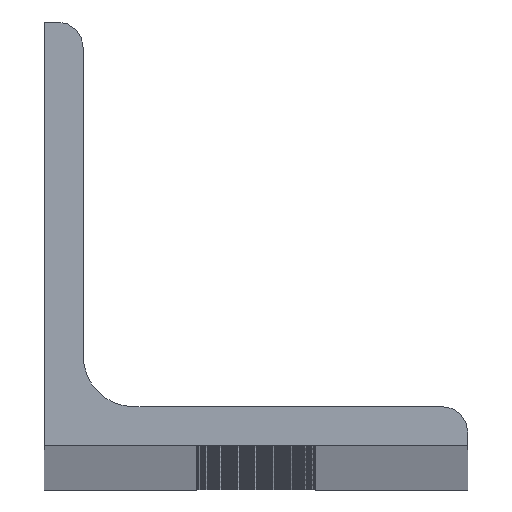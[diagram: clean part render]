
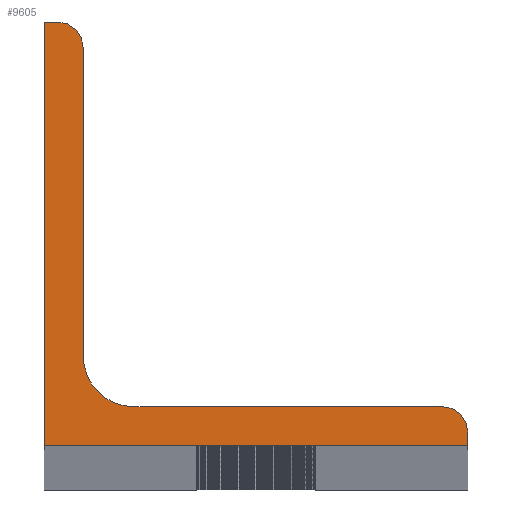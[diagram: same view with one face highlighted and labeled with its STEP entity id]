
A CAD part, top view. The second image highlights one B-rep face of the part: STEP entity #9605.
In plain terms, the highlighted planar face has unit normal (0, 0, 1).
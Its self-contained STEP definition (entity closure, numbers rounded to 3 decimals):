
#244 = DIRECTION ( 'NONE',  ( 1., 0., 0. ) ) ;
#475 = EDGE_CURVE ( 'NONE', #13331, #5356, #10318, .T. ) ;
#744 = EDGE_CURVE ( 'NONE', #12855, #10422, #10491, .T. ) ;
#1085 = LINE ( 'NONE', #3408, #2830 ) ;
#1093 = VERTEX_POINT ( 'NONE', #12857 ) ;
#1185 = LINE ( 'NONE', #2343, #10853 ) ;
#1226 = VECTOR ( 'NONE', #244, 1000. ) ;
#1561 = CARTESIAN_POINT ( 'NONE',  ( 0., 50., 0. ) ) ;
#1815 = EDGE_CURVE ( 'NONE', #1093, #10422, #2995, .T. ) ;
#1867 = EDGE_CURVE ( 'NONE', #12855, #5356, #4361, .T. ) ;
#2343 = CARTESIAN_POINT ( 'NONE',  ( 0., 0., 0. ) ) ;
#2569 = FACE_OUTER_BOUND ( 'NONE', #11243, .T. ) ;
#2596 = ORIENTED_EDGE ( 'NONE', *, *, #13449, .F. ) ;
#2830 = VECTOR ( 'NONE', #13155, 1000. ) ;
#2906 = DIRECTION ( 'NONE',  ( 1., 0., 0. ) ) ;
#2995 = LINE ( 'NONE', #8657, #7606 ) ;
#3002 = CARTESIAN_POINT ( 'NONE',  ( 4.6, 47., 0. ) ) ;
#3176 = DIRECTION ( 'NONE',  ( 1., 0., 0. ) ) ;
#3185 = ORIENTED_EDGE ( 'NONE', *, *, #6894, .F. ) ;
#3408 = CARTESIAN_POINT ( 'NONE',  ( 4.6, 10.6, 0. ) ) ;
#3471 = CARTESIAN_POINT ( 'NONE',  ( 50., 1.6, 0. ) ) ;
#3494 = DIRECTION ( 'NONE',  ( 0., -1., 0. ) ) ;
#3928 = DIRECTION ( 'NONE',  ( 0., 0., 1. ) ) ;
#4295 = CARTESIAN_POINT ( 'NONE',  ( 50., 1.6, 0. ) ) ;
#4361 = LINE ( 'NONE', #4295, #6443 ) ;
#4401 = CARTESIAN_POINT ( 'NONE',  ( 1.6, 47., 0. ) ) ;
#4743 = PLANE ( 'NONE',  #12138 ) ;
#4943 = DIRECTION ( 'NONE',  ( 1., 0., 0. ) ) ;
#5016 = CARTESIAN_POINT ( 'NONE',  ( 10.6, 10.6, 0. ) ) ;
#5073 = ORIENTED_EDGE ( 'NONE', *, *, #744, .T. ) ;
#5294 = EDGE_CURVE ( 'NONE', #9641, #13135, #5424, .T. ) ;
#5338 = CARTESIAN_POINT ( 'NONE',  ( 1.6, 50., 0. ) ) ;
#5356 = VERTEX_POINT ( 'NONE', #8763 ) ;
#5422 = DIRECTION ( 'NONE',  ( 0., 0., 1. ) ) ;
#5424 = CIRCLE ( 'NONE', #7513, 3. ) ;
#5529 = DIRECTION ( 'NONE',  ( 0., 1., 0. ) ) ;
#5670 = CARTESIAN_POINT ( 'NONE',  ( 0., 50., 0. ) ) ;
#5949 = DIRECTION ( 'NONE',  ( 1., 0., 0. ) ) ;
#6097 = CARTESIAN_POINT ( 'NONE',  ( 47., 1.6, 0. ) ) ;
#6327 = DIRECTION ( 'NONE',  ( 1., 0., 0. ) ) ;
#6443 = VECTOR ( 'NONE', #3494, 1000. ) ;
#6894 = EDGE_CURVE ( 'NONE', #13331, #9998, #1185, .T. ) ;
#6917 = ORIENTED_EDGE ( 'NONE', *, *, #1815, .F. ) ;
#7043 = CARTESIAN_POINT ( 'NONE',  ( 4.6, 10.6, 0. ) ) ;
#7333 = ORIENTED_EDGE ( 'NONE', *, *, #8967, .T. ) ;
#7513 = AXIS2_PLACEMENT_3D ( 'NONE', #4401, #5422, #3176 ) ;
#7606 = VECTOR ( 'NONE', #6327, 1000. ) ;
#8279 = ORIENTED_EDGE ( 'NONE', *, *, #10070, .F. ) ;
#8291 = VECTOR ( 'NONE', #5949, 1000. ) ;
#8657 = CARTESIAN_POINT ( 'NONE',  ( 10.6, 4.6, 0. ) ) ;
#8763 = CARTESIAN_POINT ( 'NONE',  ( 50., 0., 0. ) ) ;
#8814 = CARTESIAN_POINT ( 'NONE',  ( 0., 0., 0. ) ) ;
#8967 = EDGE_CURVE ( 'NONE', #10155, #9641, #1085, .T. ) ;
#9171 = CARTESIAN_POINT ( 'NONE',  ( 1.6, 47., 0. ) ) ;
#9320 = DIRECTION ( 'NONE',  ( 1., 0., 0. ) ) ;
#9605 = ADVANCED_FACE ( 'NONE', ( #2569 ), #4743, .T. ) ;
#9641 = VERTEX_POINT ( 'NONE', #3002 ) ;
#9935 = ORIENTED_EDGE ( 'NONE', *, *, #5294, .T. ) ;
#9998 = VERTEX_POINT ( 'NONE', #5670 ) ;
#10000 = ORIENTED_EDGE ( 'NONE', *, *, #475, .T. ) ;
#10070 = EDGE_CURVE ( 'NONE', #10155, #1093, #10483, .T. ) ;
#10155 = VERTEX_POINT ( 'NONE', #7043 ) ;
#10240 = CARTESIAN_POINT ( 'NONE',  ( 0., 0., 0. ) ) ;
#10318 = LINE ( 'NONE', #10240, #8291 ) ;
#10422 = VERTEX_POINT ( 'NONE', #13516 ) ;
#10483 = CIRCLE ( 'NONE', #12347, 6. ) ;
#10491 = CIRCLE ( 'NONE', #13522, 3. ) ;
#10853 = VECTOR ( 'NONE', #5529, 1000. ) ;
#11243 = EDGE_LOOP ( 'NONE', ( #3185, #10000, #11980, #5073, #6917, #8279, #7333, #9935, #2596 ) ) ;
#11980 = ORIENTED_EDGE ( 'NONE', *, *, #1867, .F. ) ;
#12138 = AXIS2_PLACEMENT_3D ( 'NONE', #9171, #13621, #9320 ) ;
#12347 = AXIS2_PLACEMENT_3D ( 'NONE', #5016, #13901, #4943 ) ;
#12534 = LINE ( 'NONE', #1561, #1226 ) ;
#12855 = VERTEX_POINT ( 'NONE', #3471 ) ;
#12857 = CARTESIAN_POINT ( 'NONE',  ( 10.6, 4.6, 0. ) ) ;
#13135 = VERTEX_POINT ( 'NONE', #5338 ) ;
#13155 = DIRECTION ( 'NONE',  ( 0., 1., 0. ) ) ;
#13331 = VERTEX_POINT ( 'NONE', #8814 ) ;
#13449 = EDGE_CURVE ( 'NONE', #9998, #13135, #12534, .T. ) ;
#13516 = CARTESIAN_POINT ( 'NONE',  ( 47., 4.6, 0. ) ) ;
#13522 = AXIS2_PLACEMENT_3D ( 'NONE', #6097, #3928, #2906 ) ;
#13621 = DIRECTION ( 'NONE',  ( 0., 0., 1. ) ) ;
#13901 = DIRECTION ( 'NONE',  ( 0., 0., 1. ) ) ;
